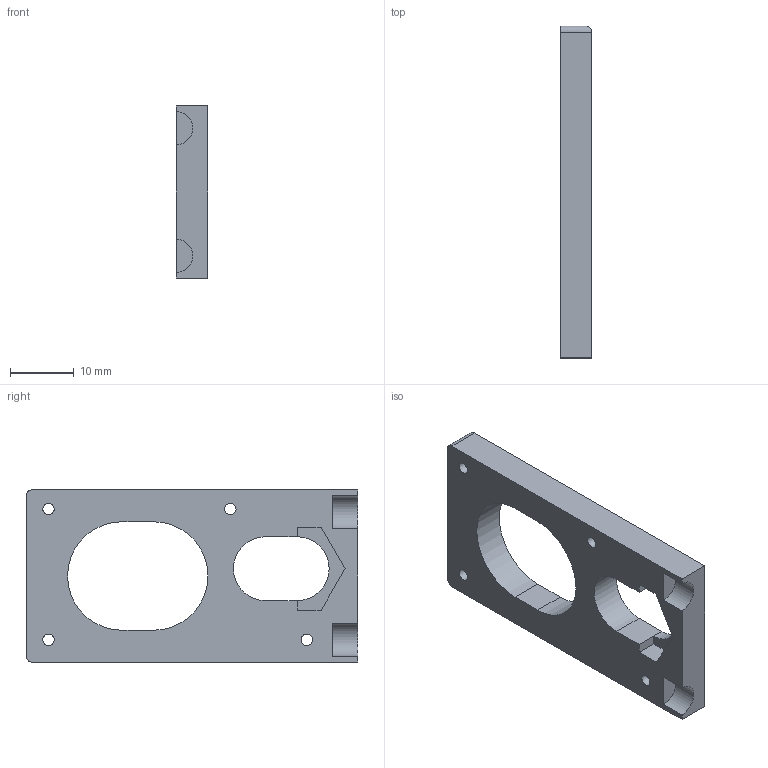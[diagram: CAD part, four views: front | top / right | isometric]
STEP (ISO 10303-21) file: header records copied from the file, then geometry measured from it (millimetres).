
FILE_DESCRIPTION(/* description */ (''),/* implementation_level */ '2;1');
FILE_NAME(/* name */ 'Z:\Flow\Inventor\Spritzenpumpe\Spritzenpumpe beweglich Mutter - 2.stp',/* time_stamp */ '2018-09-10T16:01:45+02:00',/* author */ ('JN'),/* organization */ (''),/* preprocessor_version */ 'ST-DEVELOPER v16.13',/* originating_system */ 'Autodesk Inventor 2018',/* authorisation */ '');
FILE_SCHEMA (('AUTOMOTIVE_DESIGN { 1 0 10303 214 3 1 1 }'));
Length unit declared in the file: millimetre
Products named in the file (1): Spritzenpumpe beweglich Mutter
Bounding box: 5 x 52 x 27 mm (x, y, z)
Volume: 4565.3 mm3; surface area: 3372.4 mm2
Topology: 1 solids, 1 shells, 32 faces, 90 edges, 60 vertices
Faces by surface type: plane 19, cylinder 13
Full cylindrical faces by diameter (mm): 1.8 x4
Entity records: 1045 total; most frequent: DIRECTION 172, CARTESIAN_POINT 171, ORIENTED_EDGE 164, EDGE_CURVE 82, LINE 58, VECTOR 58, AXIS2_PLACEMENT_3D 57, VERTEX_POINT 56
